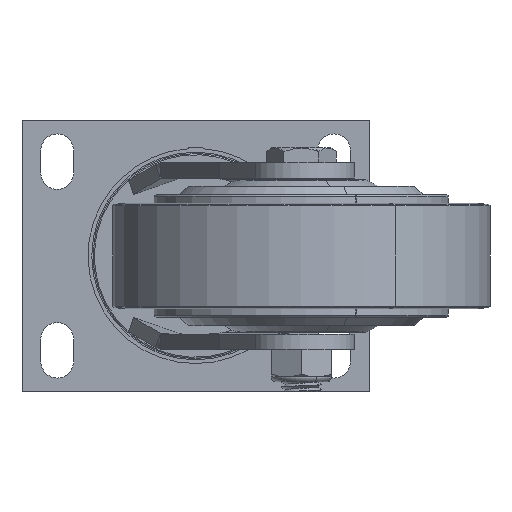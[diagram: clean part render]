
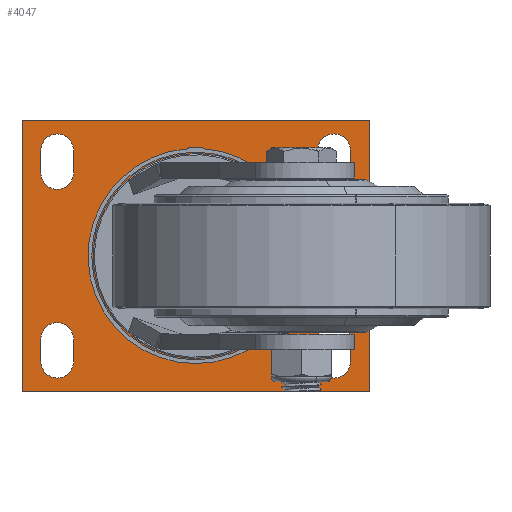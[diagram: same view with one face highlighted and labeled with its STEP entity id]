
A CAD part, front view. The second image highlights one B-rep face of the part: STEP entity #4047.
In plain terms, the highlighted planar face has unit normal (0, -1, 0).
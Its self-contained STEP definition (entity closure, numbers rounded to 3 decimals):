
#3413=CARTESIAN_POINT('',(0.,-8.,0.));
#3414=DIRECTION('',(0.,-1.,0.));
#3415=DIRECTION('',(1.,0.,0.));
#3416=AXIS2_PLACEMENT_3D('',#3413,#3414,#3415);
#3418=CARTESIAN_POINT('',(0.,-8.,0.));
#3419=DIRECTION('',(0.,-1.,0.));
#3420=DIRECTION('',(-1.,0.,0.));
#3421=AXIS2_PLACEMENT_3D('',#3418,#3419,#3420);
#3423=DIRECTION('',(0.,0.,-1.));
#3424=VECTOR('',#3423,108.);
#3425=CARTESIAN_POINT('',(-69.,-8.,54.));
#3426=LINE('',#3425,#3424);
#3427=DIRECTION('',(-1.,0.,0.));
#3428=VECTOR('',#3427,138.);
#3429=CARTESIAN_POINT('',(69.,-8.,54.));
#3430=LINE('',#3429,#3428);
#3431=DIRECTION('',(0.,0.,1.));
#3432=VECTOR('',#3431,108.);
#3433=CARTESIAN_POINT('',(69.,-8.,-54.));
#3434=LINE('',#3433,#3432);
#3435=DIRECTION('',(1.,0.,0.));
#3436=VECTOR('',#3435,138.);
#3437=CARTESIAN_POINT('',(-69.,-8.,-54.));
#3438=LINE('',#3437,#3436);
#3439=CARTESIAN_POINT('',(-55.,-8.,42.));
#3440=DIRECTION('',(0.,1.,0.));
#3441=DIRECTION('',(-1.,0.,0.));
#3442=AXIS2_PLACEMENT_3D('',#3439,#3440,#3441);
#3444=DIRECTION('',(0.,0.,1.));
#3445=VECTOR('',#3444,9.);
#3446=CARTESIAN_POINT('',(-61.5,-8.,33.));
#3447=LINE('',#3446,#3445);
#3448=CARTESIAN_POINT('',(-55.,-8.,33.));
#3449=DIRECTION('',(0.,1.,0.));
#3450=DIRECTION('',(1.,0.,0.));
#3451=AXIS2_PLACEMENT_3D('',#3448,#3449,#3450);
#3453=DIRECTION('',(0.,0.,-1.));
#3454=VECTOR('',#3453,9.);
#3455=CARTESIAN_POINT('',(-48.5,-8.,42.));
#3456=LINE('',#3455,#3454);
#3457=CARTESIAN_POINT('',(-55.,-8.,-42.));
#3458=DIRECTION('',(0.,-1.,0.));
#3459=DIRECTION('',(-1.,0.,0.));
#3460=AXIS2_PLACEMENT_3D('',#3457,#3458,#3459);
#3462=DIRECTION('',(0.,0.,1.));
#3463=VECTOR('',#3462,9.);
#3464=CARTESIAN_POINT('',(-48.5,-8.,-42.));
#3465=LINE('',#3464,#3463);
#3466=CARTESIAN_POINT('',(-55.,-8.,-33.));
#3467=DIRECTION('',(0.,-1.,0.));
#3468=DIRECTION('',(1.,0.,0.));
#3469=AXIS2_PLACEMENT_3D('',#3466,#3467,#3468);
#3471=DIRECTION('',(0.,0.,-1.));
#3472=VECTOR('',#3471,9.);
#3473=CARTESIAN_POINT('',(-61.5,-8.,-33.));
#3474=LINE('',#3473,#3472);
#3475=CARTESIAN_POINT('',(55.,-8.,42.));
#3476=DIRECTION('',(0.,-1.,0.));
#3477=DIRECTION('',(1.,0.,0.));
#3478=AXIS2_PLACEMENT_3D('',#3475,#3476,#3477);
#3480=DIRECTION('',(0.,0.,-1.));
#3481=VECTOR('',#3480,9.);
#3482=CARTESIAN_POINT('',(48.5,-8.,42.));
#3483=LINE('',#3482,#3481);
#3484=CARTESIAN_POINT('',(55.,-8.,33.));
#3485=DIRECTION('',(0.,-1.,0.));
#3486=DIRECTION('',(-1.,0.,0.));
#3487=AXIS2_PLACEMENT_3D('',#3484,#3485,#3486);
#3489=DIRECTION('',(0.,0.,1.));
#3490=VECTOR('',#3489,9.);
#3491=CARTESIAN_POINT('',(61.5,-8.,33.));
#3492=LINE('',#3491,#3490);
#3493=CARTESIAN_POINT('',(55.,-8.,-42.));
#3494=DIRECTION('',(0.,1.,0.));
#3495=DIRECTION('',(1.,0.,0.));
#3496=AXIS2_PLACEMENT_3D('',#3493,#3494,#3495);
#3498=DIRECTION('',(0.,0.,-1.));
#3499=VECTOR('',#3498,9.);
#3500=CARTESIAN_POINT('',(61.5,-8.,-33.));
#3501=LINE('',#3500,#3499);
#3502=CARTESIAN_POINT('',(55.,-8.,-33.));
#3503=DIRECTION('',(0.,1.,0.));
#3504=DIRECTION('',(-1.,0.,0.));
#3505=AXIS2_PLACEMENT_3D('',#3502,#3503,#3504);
#3507=DIRECTION('',(0.,0.,1.));
#3508=VECTOR('',#3507,9.);
#3509=CARTESIAN_POINT('',(48.5,-8.,-42.));
#3510=LINE('',#3509,#3508);
#3686=CARTESIAN_POINT('',(-36.742,-8.,0.));
#3687=CARTESIAN_POINT('',(36.742,-8.,0.));
#3688=VERTEX_POINT('',#3686);
#3689=VERTEX_POINT('',#3687);
#3698=CARTESIAN_POINT('',(-69.,-8.,54.));
#3699=CARTESIAN_POINT('',(-69.,-8.,-54.));
#3700=VERTEX_POINT('',#3698);
#3701=VERTEX_POINT('',#3699);
#3702=CARTESIAN_POINT('',(69.,-8.,-54.));
#3703=VERTEX_POINT('',#3702);
#3704=CARTESIAN_POINT('',(69.,-8.,54.));
#3705=VERTEX_POINT('',#3704);
#3714=CARTESIAN_POINT('',(-61.5,-8.,42.));
#3715=CARTESIAN_POINT('',(-48.5,-8.,42.));
#3716=VERTEX_POINT('',#3714);
#3717=VERTEX_POINT('',#3715);
#3718=CARTESIAN_POINT('',(-48.5,-8.,33.));
#3719=VERTEX_POINT('',#3718);
#3720=CARTESIAN_POINT('',(-61.5,-8.,33.));
#3721=VERTEX_POINT('',#3720);
#3723=CARTESIAN_POINT('',(-61.5,-8.,-42.));
#3725=VERTEX_POINT('',#3723);
#3727=CARTESIAN_POINT('',(-48.5,-8.,-42.));
#3729=VERTEX_POINT('',#3727);
#3731=CARTESIAN_POINT('',(-48.5,-8.,-33.));
#3733=VERTEX_POINT('',#3731);
#3735=CARTESIAN_POINT('',(-61.5,-8.,-33.));
#3737=VERTEX_POINT('',#3735);
#3739=CARTESIAN_POINT('',(61.5,-8.,42.));
#3741=VERTEX_POINT('',#3739);
#3743=CARTESIAN_POINT('',(48.5,-8.,42.));
#3745=VERTEX_POINT('',#3743);
#3747=CARTESIAN_POINT('',(48.5,-8.,33.));
#3749=VERTEX_POINT('',#3747);
#3751=CARTESIAN_POINT('',(61.5,-8.,33.));
#3753=VERTEX_POINT('',#3751);
#3755=CARTESIAN_POINT('',(61.5,-8.,-42.));
#3757=VERTEX_POINT('',#3755);
#3759=CARTESIAN_POINT('',(48.5,-8.,-42.));
#3761=VERTEX_POINT('',#3759);
#3763=CARTESIAN_POINT('',(48.5,-8.,-33.));
#3765=VERTEX_POINT('',#3763);
#3767=CARTESIAN_POINT('',(61.5,-8.,-33.));
#3769=VERTEX_POINT('',#3767);
#3986=CARTESIAN_POINT('',(0.,-8.,0.));
#3987=DIRECTION('',(0.,-1.,0.));
#3988=DIRECTION('',(-1.,0.,0.));
#3989=AXIS2_PLACEMENT_3D('',#3986,#3987,#3988);
#3990=PLANE('',#3989);
#3992=ORIENTED_EDGE('',*,*,#3991,.F.);
#3994=ORIENTED_EDGE('',*,*,#3993,.F.);
#3996=ORIENTED_EDGE('',*,*,#3995,.F.);
#3998=ORIENTED_EDGE('',*,*,#3997,.F.);
#3999=EDGE_LOOP('',(#3992,#3994,#3996,#3998));
#4000=FACE_OUTER_BOUND('',#3999,.F.);
#4002=ORIENTED_EDGE('',*,*,#4001,.T.);
#4004=ORIENTED_EDGE('',*,*,#4003,.T.);
#4005=EDGE_LOOP('',(#4002,#4004));
#4006=FACE_BOUND('',#4005,.F.);
#4008=ORIENTED_EDGE('',*,*,#4007,.F.);
#4010=ORIENTED_EDGE('',*,*,#4009,.F.);
#4012=ORIENTED_EDGE('',*,*,#4011,.F.);
#4014=ORIENTED_EDGE('',*,*,#4013,.F.);
#4015=EDGE_LOOP('',(#4008,#4010,#4012,#4014));
#4016=FACE_BOUND('',#4015,.F.);
#4018=ORIENTED_EDGE('',*,*,#4017,.T.);
#4020=ORIENTED_EDGE('',*,*,#4019,.T.);
#4022=ORIENTED_EDGE('',*,*,#4021,.T.);
#4024=ORIENTED_EDGE('',*,*,#4023,.T.);
#4025=EDGE_LOOP('',(#4018,#4020,#4022,#4024));
#4026=FACE_BOUND('',#4025,.F.);
#4028=ORIENTED_EDGE('',*,*,#4027,.T.);
#4030=ORIENTED_EDGE('',*,*,#4029,.T.);
#4032=ORIENTED_EDGE('',*,*,#4031,.T.);
#4034=ORIENTED_EDGE('',*,*,#4033,.T.);
#4035=EDGE_LOOP('',(#4028,#4030,#4032,#4034));
#4036=FACE_BOUND('',#4035,.F.);
#4038=ORIENTED_EDGE('',*,*,#4037,.F.);
#4040=ORIENTED_EDGE('',*,*,#4039,.F.);
#4042=ORIENTED_EDGE('',*,*,#4041,.F.);
#4044=ORIENTED_EDGE('',*,*,#4043,.F.);
#4045=EDGE_LOOP('',(#4038,#4040,#4042,#4044));
#4046=FACE_BOUND('',#4045,.F.);
#3417=CIRCLE('',#3416,36.742);
#3422=CIRCLE('',#3421,36.742);
#3443=CIRCLE('',#3442,6.5);
#3452=CIRCLE('',#3451,6.5);
#3461=CIRCLE('',#3460,6.5);
#3470=CIRCLE('',#3469,6.5);
#3479=CIRCLE('',#3478,6.5);
#3488=CIRCLE('',#3487,6.5);
#3497=CIRCLE('',#3496,6.5);
#3506=CIRCLE('',#3505,6.5);
#3991=EDGE_CURVE('',#3700,#3701,#3426,.T.);
#3993=EDGE_CURVE('',#3705,#3700,#3430,.T.);
#3995=EDGE_CURVE('',#3703,#3705,#3434,.T.);
#3997=EDGE_CURVE('',#3701,#3703,#3438,.T.);
#4001=EDGE_CURVE('',#3689,#3688,#3417,.T.);
#4003=EDGE_CURVE('',#3688,#3689,#3422,.T.);
#4007=EDGE_CURVE('',#3716,#3717,#3443,.T.);
#4009=EDGE_CURVE('',#3721,#3716,#3447,.T.);
#4011=EDGE_CURVE('',#3719,#3721,#3452,.T.);
#4013=EDGE_CURVE('',#3717,#3719,#3456,.T.);
#4017=EDGE_CURVE('',#3725,#3729,#3461,.T.);
#4019=EDGE_CURVE('',#3729,#3733,#3465,.T.);
#4021=EDGE_CURVE('',#3733,#3737,#3470,.T.);
#4023=EDGE_CURVE('',#3737,#3725,#3474,.T.);
#4027=EDGE_CURVE('',#3741,#3745,#3479,.T.);
#4029=EDGE_CURVE('',#3745,#3749,#3483,.T.);
#4031=EDGE_CURVE('',#3749,#3753,#3488,.T.);
#4033=EDGE_CURVE('',#3753,#3741,#3492,.T.);
#4037=EDGE_CURVE('',#3757,#3761,#3497,.T.);
#4039=EDGE_CURVE('',#3769,#3757,#3501,.T.);
#4041=EDGE_CURVE('',#3765,#3769,#3506,.T.);
#4043=EDGE_CURVE('',#3761,#3765,#3510,.T.);
#4047=ADVANCED_FACE('',(#4000,#4006,#4016,#4026,#4036,#4046),#3990,.T.);
